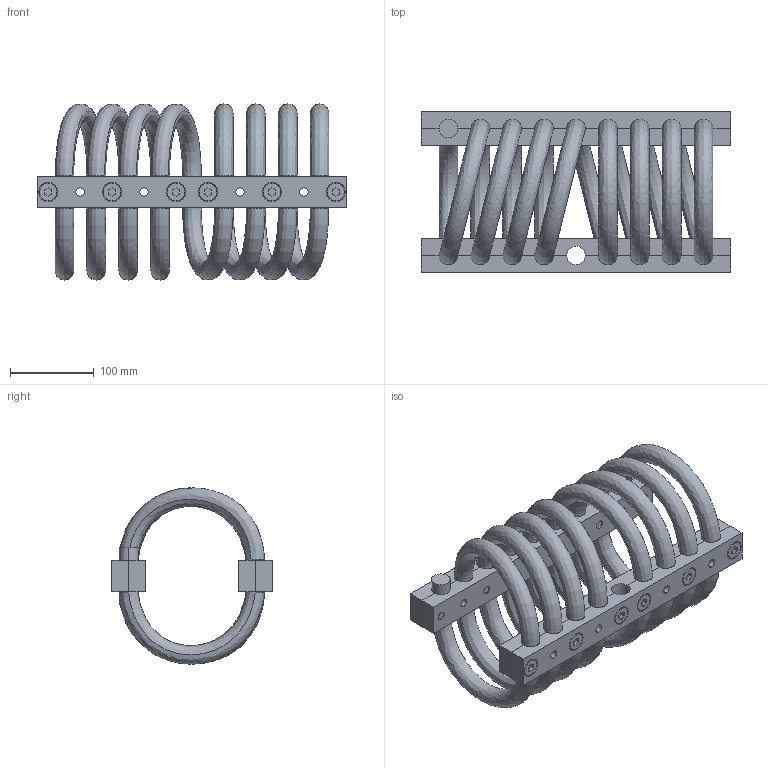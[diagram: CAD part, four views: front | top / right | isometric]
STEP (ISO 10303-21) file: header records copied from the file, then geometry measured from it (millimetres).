
FILE_DESCRIPTION (( 'STEP AP214' ), '1' );
FILE_NAME ('WR28-800-8DM.STEP', '2018-12-07T10:12:48', ( 'user' ), ( 'Microsoft' ), 'SwSTEP 2.0', 'SolidWorks 2016', '' );
FILE_SCHEMA (( 'AUTOMOTIVE_DESIGN' ));
Length unit declared in the file: millimetre
Products named in the file (1): WR28-800-8DM
Bounding box: 368.3 x 191 x 210 mm (x, y, z)
Volume: 2682284 mm3; surface area: 576281 mm2
Topology: 34 solids, 34 shells, 664 faces, 1522 edges, 962 vertices
Faces by surface type: plane 300, cylinder 258, cone 72, bspline 34
Entity records: 37171 total; most frequent: CARTESIAN_POINT 20775, DIRECTION 3148, ORIENTED_EDGE 3044, EDGE_CURVE 1522, AXIS2_PLACEMENT_3D 1151, VERTEX_POINT 962, LINE 846, VECTOR 846
